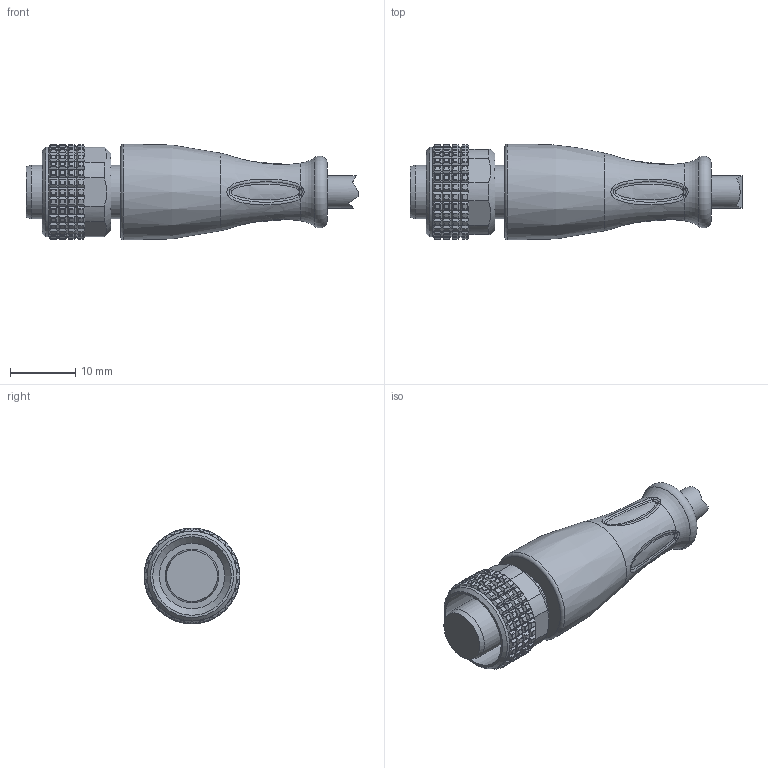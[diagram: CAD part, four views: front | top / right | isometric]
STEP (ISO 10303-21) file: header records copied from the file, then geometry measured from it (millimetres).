
FILE_DESCRIPTION((''),'2;1');
FILE_NAME('C:\Users\enrico\Desktop\Ale\Sito\AUTOMAZIONE_2020\Connettori circolari per sensori e attuatori\Singola testa\Step\M12 Fe ass.stp','2020-06-24T10:54:46',('Tecnico2'),(''),'Autodesk Inventor 2012','Autodesk Inventor 2012','');
FILE_SCHEMA(('AUTOMOTIVE_DESIGN { 1 0 10303 214 1 1 1 1 }'));
Length unit declared in the file: millimetre
Products named in the file (3): C12F3A2; ghiera M12_FE_NON TECNICO_
Assembly tree (2 placements, depth 2):
  C12F3A2
    C12F3A2
    ghiera M12_FE_NON TECNICO_
Bounding box: 50.79 x 14.68 x 14.68 mm (x, y, z)
Volume: 4846.1 mm3; surface area: 2914.2 mm2
Topology: 2 solids, 2 shells, 2232 faces, 5059 edges, 2833 vertices
Faces by surface type: cylinder 965, plane 742, sphere 480, bspline 33, torus 8, cone 4
Full cylindrical faces by diameter (mm): 5 x1, 8.2 x1, 12 x1, 13.7 x1
Entity records: 63215 total; most frequent: CARTESIAN_POINT 12321, DIRECTION 11710, ORIENTED_EDGE 10074, EDGE_CURVE 5037, AXIS2_PLACEMENT_3D 4524, VERTEX_POINT 2825, VECTOR 2662, LINE 2662
